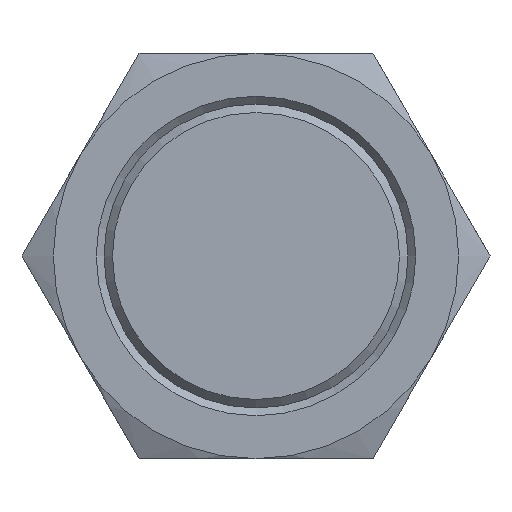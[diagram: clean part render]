
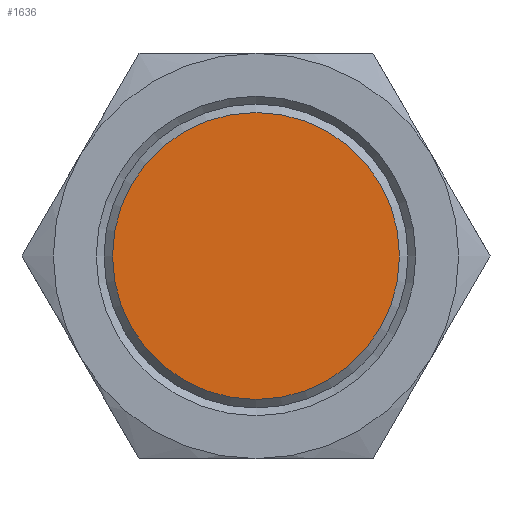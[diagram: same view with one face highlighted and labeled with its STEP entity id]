
A CAD part, left-side view. The second image highlights one B-rep face of the part: STEP entity #1636.
In plain terms, the highlighted planar face has unit normal (-1, 0, 0).
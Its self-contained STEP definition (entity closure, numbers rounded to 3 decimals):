
#1593=CARTESIAN_POINT('',(-25.,8.5,0.));
#1594=VERTEX_POINT('',#1593);
#1595=CARTESIAN_POINT('',(-25.,0.,0.0));
#1596=DIRECTION('',(1.0,0.0,0.0));
#1597=DIRECTION('',(0.0,-1.0,0.0));
#1598=AXIS2_PLACEMENT_3D('',#1595,#1596,#1597);
#1599=CIRCLE('',#1598,8.5);
#1600=EDGE_CURVE('',#1594,#1594,#1599,.T.);
#1628=CARTESIAN_POINT('',(-25.,4.5,0.0));
#1629=DIRECTION('',(-1.0,0.0,0.0));
#1630=DIRECTION('',(0.0,0.0,1.0));
#1631=AXIS2_PLACEMENT_3D('',#1628,#1629,#1630);
#1632=PLANE('',#1631);
#1633=ORIENTED_EDGE('',*,*,#1600,.F.);
#1634=EDGE_LOOP('',(#1633));
#1635=FACE_OUTER_BOUND('',#1634,.T.);
#1636=ADVANCED_FACE('',(#1635),#1632,.T.);
